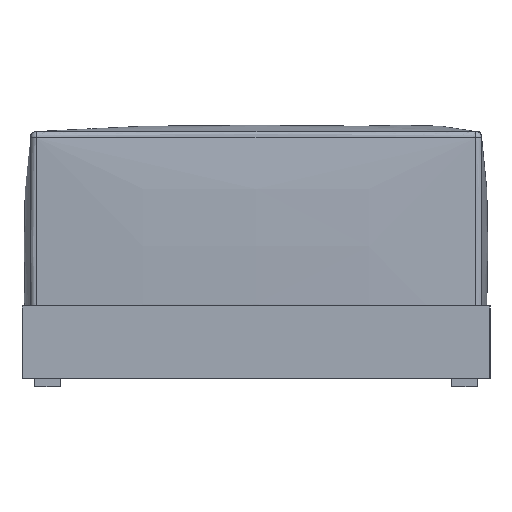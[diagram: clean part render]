
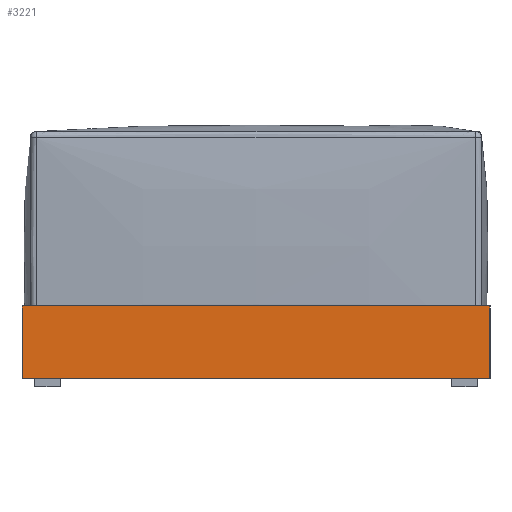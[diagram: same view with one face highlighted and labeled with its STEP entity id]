
A CAD part, left-side view. The second image highlights one B-rep face of the part: STEP entity #3221.
In plain terms, the highlighted planar face has unit normal (-1, 0, 0).
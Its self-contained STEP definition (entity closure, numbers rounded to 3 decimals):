
#491=FACE_OUTER_BOUND('',#743,.T.);
#743=EDGE_LOOP('',(#2191,#2192,#2193,#2194));
#1007=LINE('',#4670,#1211);
#1008=LINE('',#4672,#1212);
#1009=LINE('',#4674,#1213);
#1010=LINE('',#4675,#1214);
#1211=VECTOR('',#3852,10.);
#1212=VECTOR('',#3853,10.);
#1213=VECTOR('',#3854,10.);
#1214=VECTOR('',#3855,10.);
#1407=VERTEX_POINT('',#4668);
#1408=VERTEX_POINT('',#4669);
#1409=VERTEX_POINT('',#4671);
#1410=VERTEX_POINT('',#4673);
#1687=EDGE_CURVE('',#1407,#1408,#1007,.T.);
#1688=EDGE_CURVE('',#1407,#1409,#1008,.T.);
#1689=EDGE_CURVE('',#1410,#1409,#1009,.T.);
#1690=EDGE_CURVE('',#1408,#1410,#1010,.T.);
#2191=ORIENTED_EDGE('',*,*,#1687,.F.);
#2192=ORIENTED_EDGE('',*,*,#1688,.T.);
#2193=ORIENTED_EDGE('',*,*,#1689,.F.);
#2194=ORIENTED_EDGE('',*,*,#1690,.F.);
#3115=PLANE('',#3508);
#3221=ADVANCED_FACE('',(#491),#3115,.T.);
#3508=AXIS2_PLACEMENT_3D('',#4667,#3850,#3851);
#3850=DIRECTION('center_axis',(-1.,0.,0.));
#3851=DIRECTION('ref_axis',(0.,-1.,0.));
#3852=DIRECTION('',(0.,1.,0.));
#3853=DIRECTION('',(0.,0.,1.));
#3854=DIRECTION('',(0.,-1.,0.));
#3855=DIRECTION('',(0.,0.,1.));
#4667=CARTESIAN_POINT('Origin',(-1100.,550.,0.));
#4668=CARTESIAN_POINT('',(-1100.,-550.,0.));
#4669=CARTESIAN_POINT('',(-1100.,550.,0.));
#4670=CARTESIAN_POINT('',(-1100.,-550.,0.));
#4671=CARTESIAN_POINT('',(-1100.,-550.,170.));
#4672=CARTESIAN_POINT('',(-1100.,-550.,0.));
#4673=CARTESIAN_POINT('',(-1100.,550.,170.));
#4674=CARTESIAN_POINT('',(-1100.,-550.,170.));
#4675=CARTESIAN_POINT('',(-1100.,550.,0.));
